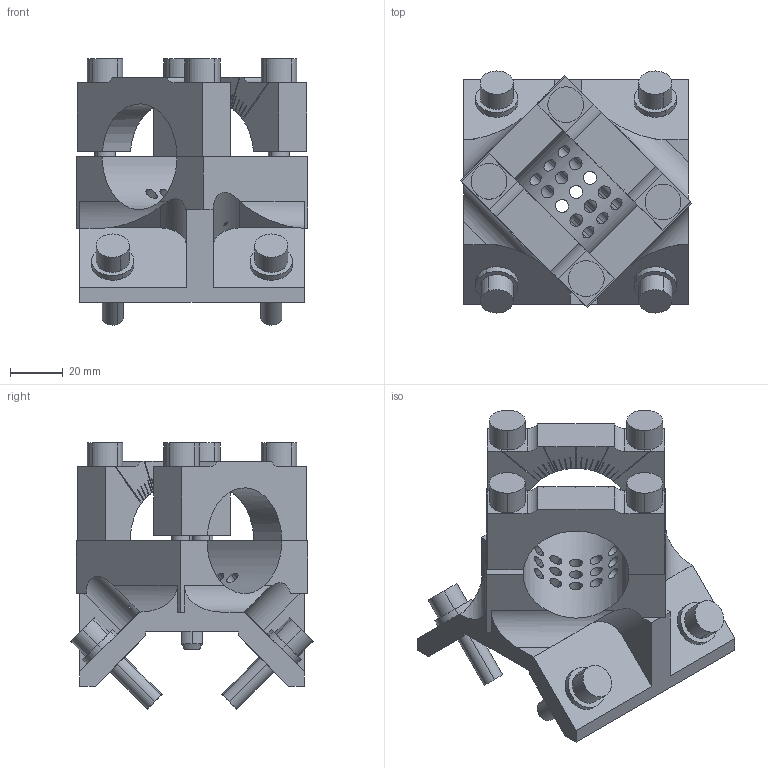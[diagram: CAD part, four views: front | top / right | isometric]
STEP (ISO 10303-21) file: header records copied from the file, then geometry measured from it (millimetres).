
FILE_DESCRIPTION(('STEP AP214'),'1');
FILE_NAME('EGT124_1720230_80RD40_X45RE.CATPart.stp','2015-09-14T13:09:25',('3D-Tool'),(' '),'Spatial InterOp 3D',' ',' ');
FILE_SCHEMA(('automotive_design'));
Length unit declared in the file: millimetre
Products named in the file (12): EGT124_1720230_80RD40_X45RE|EGT124_80RD40_X45RE|Bohrbearbeitung; EGT124_1720230_80RD40_X45RE|EGT206_SCHELLE_RD40_2|Assemble.137; EGT124_1720230_80RD40_X45RE|EGT206_SCHELLE_RD40_1|Assemble.138; 1; 2; 3; 4; 5; 6; 7; 8; EGT124_1720230_80RD40_X45RE|EGT212_Zentrierstift|Chamfer.1
Bounding box: 87.68 x 91.57 x 100.69 mm (x, y, z)
Volume: 187358.3 mm3; surface area: 61981.4 mm2
Topology: 12 solids, 12 shells, 508 faces, 1334 edges, 819 vertices
Faces by surface type: plane 225, cylinder 211, cone 72
Entity records: 20871 total; most frequent: CARTESIAN_POINT 4323, ORIENTED_EDGE 2548, DIRECTION 2532, EDGE_CURVE 1274, AXIS2_PLACEMENT_3D 920, VERTEX_POINT 819, LINE 692, VECTOR 692
